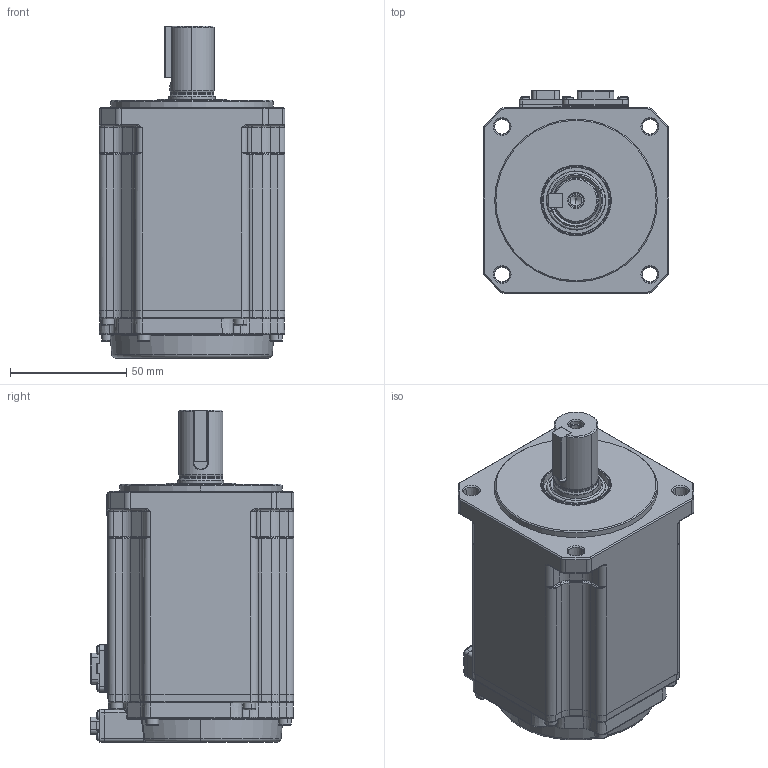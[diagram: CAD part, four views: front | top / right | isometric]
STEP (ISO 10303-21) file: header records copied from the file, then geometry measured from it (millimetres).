
FILE_DESCRIPTION (( 'STEP AP214' ), '1' );
FILE_NAME ('80-1000W-衄蚐猾拸秶雄ん(RSK1-H080A10B30S).STEP', '2024-09-06T11:08:02', ( '' ), ( '' ), 'SwSTEP 2.0', 'SolidWorks 2020', '' );
FILE_SCHEMA (( 'AUTOMOTIVE_DESIGN' ));
Length unit declared in the file: millimetre
Products named in the file (11): 3231000001_勾板螺丝型6pin连接器插座_GAMC3064_无制动器线; 2151000006_粣_RSK1-H080A08B30S36; 3130000002_す瑩_B6x6x22(GBT1096-2003 湍れ瑩蹟謂M3); 苤萇儂晤鎢傷赽; 80-1000W-衄蚐猾拸秶雄ん(RSK1-H080A10B30S); 3220000002_蚐猾_TC20x30x4(NBR); 2142000005_儂褲禱矗_RSK1-H080A10B30S36; 2174000003_綴傷裔禱矗_RSK1-H080A08B30S36; 3111000003_内六角圆柱头螺钉_M3x10(GBT70.1-2000 锌镍合金 黑色 耐落 12.9级）; 2181000003_綴裔_RSK1-H080A08B30S36; 3114000001_十字槽盘头自挤螺钉_M2x5(GBT6560-2014 锌镍合金 黑色)
Assembly tree (24 placements, depth 2):
  80-1000W-衄蚐猾拸秶雄ん(RSK1-H080A10B30S)
    2142000005_儂褲禱矗_RSK1-H080A10B30S36
    2151000006_粣_RSK1-H080A08B30S36
    2174000003_綴傷裔禱矗_RSK1-H080A08B30S36
    3111000003_内六角圆柱头螺钉_M3x10(GBT70.1-2000 锌镍合金 黑色 耐落 12.9级）  x8
    3114000001_十字槽盘头自挤螺钉_M2x5(GBT6560-2014 锌镍合金 黑色)  x8
    3130000002_す瑩_B6x6x22(GBT1096-2003 湍れ瑩蹟謂M3)
    3220000002_蚐猾_TC20x30x4(NBR)
    3231000001_勾板螺丝型6pin连接器插座_GAMC3064_无制动器线
    苤萇儂晤鎢傷赽
    2181000003_綴裔_RSK1-H080A08B30S36
Bounding box: 80 x 87.6 x 142.9 mm (x, y, z)
Volume: 515063.9 mm3; surface area: 93028 mm2
Topology: 27 solids, 27 shells, 3459 faces, 8986 edges, 5693 vertices
Faces by surface type: plane 1737, cylinder 650, bspline 459, cone 313, torus 278, sphere 22
Entity records: 123656 total; most frequent: CARTESIAN_POINT 37137, ORIENTED_EDGE 16048, DIRECTION 13832, EDGE_CURVE 8024, VERTEX_POINT 5112, VECTOR 4922, LINE 4922, AXIS2_PLACEMENT_3D 4455
